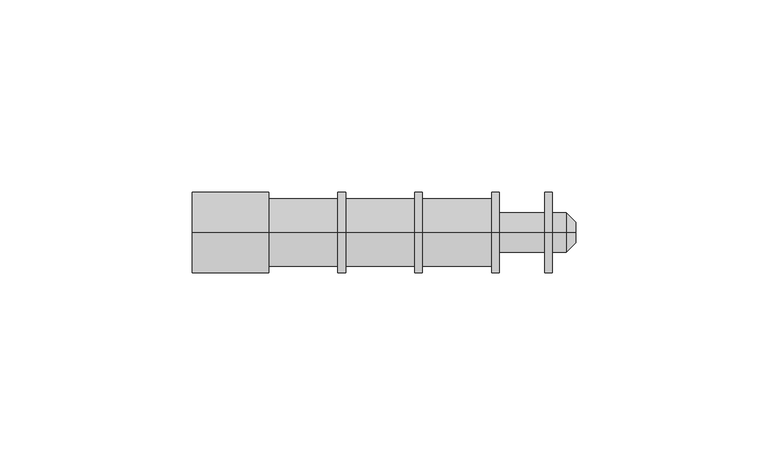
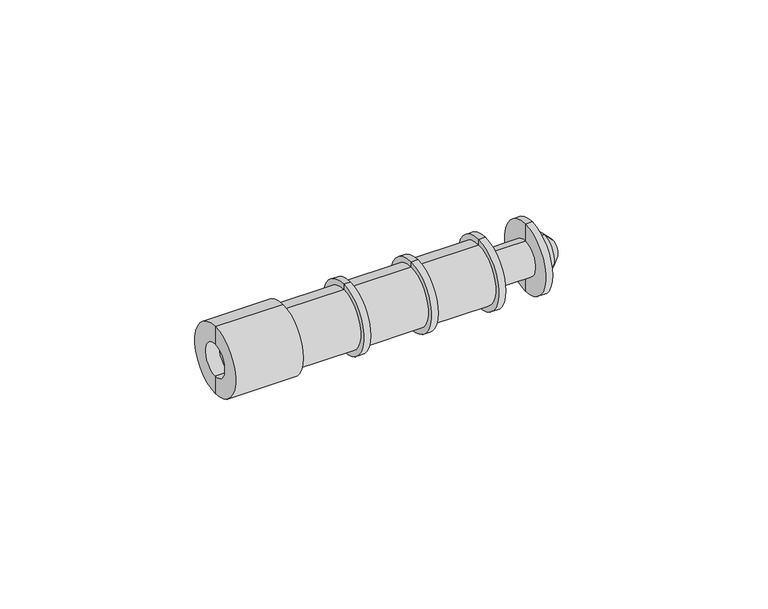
"""IFC4 building model written with IfcOpenShell, lengths in millimetres: proxy geometry, TDM_ДАТЧИК КОНТРОЛЯ УРОВНЯ ДКУ-01 : ДКУ-01."""

from ifc_helpers import new_model, si_unit, frame, origin, place, context, project, spatial, polyline, circle_curve, source, transform, mapped, element, save
from ifc_brep_helpers import plane_surface, cylinder_surface, revolved_surface, advanced_brep


def electrical_equipment_ac6f2588(model_context):
    return source(origin(), model_context, "Body", "AdvancedBrep", [
        advanced_brep(
        [(-46.0, 0.0, 5.0), (-46.0, 0.0, -5.0), (-46.0, 0.0, 0.0), (-50.0, 0.0, 5.0), (-50.0, 0.0, -5.0), (-50.0, 0.0, 10.5), (-50.0, 0.0, -10.5), (-30.0, 0.0, 10.5), (-30.0, 0.0, -10.5), (-30.0, 0.0, 8.8447154), (-30.0, 0.0, -8.8447154), (-12.0, 0.0, 8.8447154), (-12.0, 0.0, -8.8447154), (-12.0, 0.0, 10.5), (-12.0, 0.0, -10.5), (-10.0, 0.0, 10.5), (-10.0, 0.0, -10.5), (-10.0, 0.0, 8.8447154), (-10.0, 0.0, -8.8447154), (8.0, 0.0, 8.8447154), (8.0, 0.0, -8.8447154), (8.0, 0.0, 10.5), (8.0, 0.0, -10.5), (9.9975313, 0.0, 10.5), (9.9975313, 0.0, -10.5), (9.9975313, 0.0, 8.8447154), (9.9975313, 0.0, -8.8447154), (27.9975313, 0.0, 8.8447154), (27.9975313, 0.0, -8.8447154), (27.9975313, 0.0, 10.5), (27.9975313, 0.0, -10.5), (29.9975313, 0.0, 10.5), (29.9975313, 0.0, -10.5), (29.9975313, 0.0, 5.1870981), (29.9975313, 0.0, -5.1870981), (41.8725313, 0.0, 5.1870981), (41.8725313, 0.0, -5.1870981), (41.8725313, 0.0, 10.5), (41.8725313, 0.0, -10.5), (43.8725313, 0.0, 10.5), (43.8725313, 0.0, -10.5), (43.8725313, 0.0, 5.1870981), (43.8725313, 0.0, -5.1870981), (47.4773984, 0.0, 5.1870981), (47.4773984, 0.0, -5.1870981), (50.0, 0.0, 2.6644965), (50.0, 0.0, -2.6644965), (50.0, 0.0, 0.0)],
        [
            (0, 1, circle_curve(frame((-46.0, 0.0, 0.0), z_axis=(-1.0, 0.0, 0.0), x_axis=(0.0, 0.0, -1.0)), 5.0)),
            (1, 2),
            (2, 0),
            (1, 0, circle_curve(frame((-46.0, 0.0, 0.0), z_axis=(-1.0, 0.0, 0.0), x_axis=(0.0, 0.0, -1.0)), 5.0)),
            (3, 4, circle_curve(frame((-50.0, 0.0, 0.0), z_axis=(-1.0, 0.0, 0.0), x_axis=(0.0, 0.0, -1.0)), 5.0)),
            (4, 1),
            (0, 3),
            (4, 3, circle_curve(frame((-50.0, 0.0, 0.0), z_axis=(-1.0, 0.0, 0.0), x_axis=(0.0, 0.0, -1.0)), 5.0)),
            (5, 6, circle_curve(frame((-50.0, 0.0, 0.0), z_axis=(-1.0, 0.0, 0.0), x_axis=(0.0, 0.0, -1.0)), 10.5)),
            (6, 4),
            (3, 5),
            (6, 5, circle_curve(frame((-50.0, 0.0, 0.0), z_axis=(-1.0, 0.0, 0.0), x_axis=(0.0, 0.0, -1.0)), 10.5)),
            (7, 8, circle_curve(frame((-30.0, 0.0, 0.0), z_axis=(-1.0, 0.0, 0.0), x_axis=(0.0, 0.0, -1.0)), 10.5)),
            (8, 6),
            (5, 7),
            (8, 7, circle_curve(frame((-30.0, 0.0, 0.0), z_axis=(-1.0, 0.0, 0.0), x_axis=(0.0, 0.0, -1.0)), 10.5)),
            (9, 10, circle_curve(frame((-30.0, 0.0, 0.0), z_axis=(-1.0, 0.0, 0.0), x_axis=(0.0, 0.0, -1.0)), 8.8447154)),
            (10, 8),
            (7, 9),
            (10, 9, circle_curve(frame((-30.0, 0.0, 0.0), z_axis=(-1.0, 0.0, 0.0), x_axis=(0.0, 0.0, -1.0)), 8.8447154)),
            (11, 12, circle_curve(frame((-12.0, 0.0, 0.0), z_axis=(-1.0, 0.0, 0.0), x_axis=(0.0, 0.0, -1.0)), 8.8447154)),
            (12, 10),
            (9, 11),
            (12, 11, circle_curve(frame((-12.0, 0.0, 0.0), z_axis=(-1.0, 0.0, 0.0), x_axis=(0.0, 0.0, -1.0)), 8.8447154)),
            (13, 14, circle_curve(frame((-12.0, 0.0, 0.0), z_axis=(-1.0, 0.0, 0.0), x_axis=(0.0, 0.0, -1.0)), 10.5)),
            (14, 12),
            (11, 13),
            (14, 13, circle_curve(frame((-12.0, 0.0, 0.0), z_axis=(-1.0, 0.0, 0.0), x_axis=(0.0, 0.0, -1.0)), 10.5)),
            (15, 16, circle_curve(frame((-10.0, 0.0, 0.0), z_axis=(-1.0, 0.0, 0.0), x_axis=(0.0, 0.0, -1.0)), 10.5)),
            (16, 14),
            (13, 15),
            (16, 15, circle_curve(frame((-10.0, 0.0, 0.0), z_axis=(-1.0, 0.0, 0.0), x_axis=(0.0, 0.0, -1.0)), 10.5)),
            (17, 18, circle_curve(frame((-10.0, 0.0, 0.0), z_axis=(-1.0, 0.0, 0.0), x_axis=(0.0, 0.0, -1.0)), 8.8447154)),
            (18, 16),
            (15, 17),
            (18, 17, circle_curve(frame((-10.0, 0.0, 0.0), z_axis=(-1.0, 0.0, 0.0), x_axis=(0.0, 0.0, -1.0)), 8.8447154)),
            (19, 20, circle_curve(frame((8.0, 0.0, 0.0), z_axis=(-1.0, 0.0, 0.0), x_axis=(0.0, 0.0, -1.0)), 8.8447154)),
            (20, 18),
            (17, 19),
            (20, 19, circle_curve(frame((8.0, 0.0, 0.0), z_axis=(-1.0, 0.0, 0.0), x_axis=(0.0, 0.0, -1.0)), 8.8447154)),
            (21, 22, circle_curve(frame((8.0, 0.0, 0.0), z_axis=(-1.0, 0.0, 0.0), x_axis=(0.0, 0.0, -1.0)), 10.5)),
            (22, 20),
            (19, 21),
            (22, 21, circle_curve(frame((8.0, 0.0, 0.0), z_axis=(-1.0, 0.0, 0.0), x_axis=(0.0, 0.0, -1.0)), 10.5)),
            (23, 24, circle_curve(frame((9.9975313, 0.0, 0.0), z_axis=(-1.0, 0.0, 0.0), x_axis=(0.0, 0.0, -1.0)), 10.5)),
            (24, 22),
            (21, 23),
            (24, 23, circle_curve(frame((9.9975313, 0.0, 0.0), z_axis=(-1.0, 0.0, 0.0), x_axis=(0.0, 0.0, -1.0)), 10.5)),
            (25, 26, circle_curve(frame((9.9975313, 0.0, 0.0), z_axis=(-1.0, 0.0, 0.0), x_axis=(0.0, 0.0, -1.0)), 8.8447154)),
            (26, 24),
            (23, 25),
            (26, 25, circle_curve(frame((9.9975313, 0.0, 0.0), z_axis=(-1.0, 0.0, 0.0), x_axis=(0.0, 0.0, -1.0)), 8.8447154)),
            (27, 28, circle_curve(frame((27.9975313, 0.0, 0.0), z_axis=(-1.0, 0.0, 0.0), x_axis=(0.0, 0.0, -1.0)), 8.8447154)),
            (28, 26),
            (25, 27),
            (28, 27, circle_curve(frame((27.9975313, 0.0, 0.0), z_axis=(-1.0, 0.0, 0.0), x_axis=(0.0, 0.0, -1.0)), 8.8447154)),
            (29, 30, circle_curve(frame((27.9975313, 0.0, 0.0), z_axis=(-1.0, 0.0, 0.0), x_axis=(0.0, 0.0, -1.0)), 10.5)),
            (30, 28),
            (27, 29),
            (30, 29, circle_curve(frame((27.9975313, 0.0, 0.0), z_axis=(-1.0, 0.0, 0.0), x_axis=(0.0, 0.0, -1.0)), 10.5)),
            (31, 32, circle_curve(frame((29.9975313, 0.0, 0.0), z_axis=(-1.0, 0.0, 0.0), x_axis=(0.0, 0.0, -1.0)), 10.5)),
            (32, 30),
            (29, 31),
            (32, 31, circle_curve(frame((29.9975313, 0.0, 0.0), z_axis=(-1.0, 0.0, 0.0), x_axis=(0.0, 0.0, -1.0)), 10.5)),
            (33, 34, circle_curve(frame((29.9975313, 0.0, 0.0), z_axis=(-1.0, 0.0, 0.0), x_axis=(0.0, 0.0, -1.0)), 5.1870981)),
            (34, 32),
            (31, 33),
            (34, 33, circle_curve(frame((29.9975313, 0.0, 0.0), z_axis=(-1.0, 0.0, 0.0), x_axis=(0.0, 0.0, -1.0)), 5.1870981)),
            (35, 36, circle_curve(frame((41.8725313, 0.0, 0.0), z_axis=(-1.0, 0.0, 0.0), x_axis=(0.0, 0.0, -1.0)), 5.1870981)),
            (36, 34),
            (33, 35),
            (36, 35, circle_curve(frame((41.8725313, 0.0, 0.0), z_axis=(-1.0, 0.0, 0.0), x_axis=(0.0, 0.0, -1.0)), 5.1870981)),
            (37, 38, circle_curve(frame((41.8725313, 0.0, 0.0), z_axis=(-1.0, 0.0, 0.0), x_axis=(0.0, 0.0, -1.0)), 10.5)),
            (38, 36),
            (35, 37),
            (38, 37, circle_curve(frame((41.8725313, 0.0, 0.0), z_axis=(-1.0, 0.0, 0.0), x_axis=(0.0, 0.0, -1.0)), 10.5)),
            (39, 40, circle_curve(frame((43.8725313, 0.0, 0.0), z_axis=(-1.0, 0.0, 0.0), x_axis=(0.0, 0.0, -1.0)), 10.5)),
            (40, 38),
            (37, 39),
            (40, 39, circle_curve(frame((43.8725313, 0.0, 0.0), z_axis=(-1.0, 0.0, 0.0), x_axis=(0.0, 0.0, -1.0)), 10.5)),
            (41, 42, circle_curve(frame((43.8725313, 0.0, 0.0), z_axis=(-1.0, 0.0, 0.0), x_axis=(0.0, 0.0, -1.0)), 5.1870981)),
            (42, 40),
            (39, 41),
            (42, 41, circle_curve(frame((43.8725313, 0.0, 0.0), z_axis=(-1.0, 0.0, 0.0), x_axis=(0.0, 0.0, -1.0)), 5.1870981)),
            (43, 44, circle_curve(frame((47.4773984, 0.0, 0.0), z_axis=(-1.0, 0.0, 0.0), x_axis=(0.0, 0.0, -1.0)), 5.1870981)),
            (44, 42),
            (41, 43),
            (44, 43, circle_curve(frame((47.4773984, 0.0, 0.0), z_axis=(-1.0, 0.0, 0.0), x_axis=(0.0, 0.0, -1.0)), 5.1870981)),
            (45, 46, circle_curve(frame((50.0, 0.0, 0.0), z_axis=(-1.0, 0.0, 0.0), x_axis=(0.0, 0.0, -1.0)), 2.6644965)),
            (46, 44),
            (43, 45),
            (46, 45, circle_curve(frame((50.0, 0.0, 0.0), z_axis=(-1.0, 0.0, 0.0), x_axis=(0.0, 0.0, -1.0)), 2.6644965)),
            (47, 46),
            (45, 47),
        ],
        [
            plane_surface(frame((-46.0, 0.0, 0.0), z_axis=(-1.0, 0.0, 0.0), x_axis=(0.0, 0.0, -1.0))),
            revolved_surface(polyline([(-46.0, 0.0, -5.0), (-50.0, 0.0, -5.0)]), (-38.3288785, 0.0, 0.0), (1.0, 0.0, 0.0)),
            plane_surface(frame((-50.0, 0.0, 0.0), z_axis=(-1.0, 0.0, 0.0), x_axis=(0.0, 0.0, -1.0))),
            cylinder_surface(frame((-38.3288785, 0.0, 0.0), z_axis=(1.0, 0.0, 0.0), x_axis=(0.0, 0.0, -1.0)), 10.5),
            plane_surface(frame((-30.0, 0.0, 0.0), z_axis=(1.0, 0.0, 0.0), x_axis=(0.0, 0.0, -1.0))),
            cylinder_surface(frame((-38.3288785, 0.0, 0.0), z_axis=(1.0, 0.0, 0.0), x_axis=(0.0, 0.0, -1.0)), 8.8447154),
            plane_surface(frame((-12.0, 0.0, 0.0), z_axis=(-1.0, 0.0, 0.0), x_axis=(0.0, 0.0, -1.0))),
            plane_surface(frame((-10.0, 0.0, 0.0), z_axis=(1.0, 0.0, 0.0), x_axis=(0.0, 0.0, -1.0))),
            plane_surface(frame((8.0, 0.0, 0.0), z_axis=(-1.0, 0.0, 0.0), x_axis=(0.0, 0.0, -1.0))),
            plane_surface(frame((9.9975313, 0.0, 0.0), z_axis=(1.0, 0.0, 0.0), x_axis=(0.0, 0.0, -1.0))),
            plane_surface(frame((27.9975313, 0.0, 0.0), z_axis=(-1.0, 0.0, 0.0), x_axis=(0.0, 0.0, -1.0))),
            plane_surface(frame((29.9975313, 0.0, 0.0), z_axis=(1.0, 0.0, 0.0), x_axis=(0.0, 0.0, -1.0))),
            cylinder_surface(frame((-38.3288785, 0.0, 0.0), z_axis=(1.0, 0.0, 0.0), x_axis=(0.0, 0.0, -1.0)), 5.1870981),
            plane_surface(frame((41.8725313, 0.0, 0.0), z_axis=(-1.0, 0.0, 0.0), x_axis=(0.0, 0.0, -1.0))),
            plane_surface(frame((43.8725313, 0.0, 0.0), z_axis=(1.0, 0.0, 0.0), x_axis=(0.0, 0.0, -1.0))),
            revolved_surface(polyline([(47.4773984, 0.0, -5.1870981), (50.0, 0.0, -2.6644965)]), (-38.3288785, 0.0, 0.0), (1.0, 0.0, 0.0)),
            plane_surface(frame((50.0, 0.0, 0.0), z_axis=(1.0, 0.0, 0.0), x_axis=(0.0, 0.0, -1.0))),
        ],
        [
            (0, [[1, 2, 3]]),
            (0, [[4, -3, -2]]),
            (1, [[5, 6, -1, 7]]),
            (1, [[8, -7, -4, -6]]),
            (2, [[9, 10, -5, 11]]),
            (2, [[12, -11, -8, -10]]),
            (3, [[13, 14, -9, 15]]),
            (3, [[16, -15, -12, -14]]),
            (4, [[17, 18, -13, 19]]),
            (4, [[20, -19, -16, -18]]),
            (5, [[21, 22, -17, 23]]),
            (5, [[24, -23, -20, -22]]),
            (6, [[25, 26, -21, 27]]),
            (6, [[28, -27, -24, -26]]),
            (3, [[29, 30, -25, 31]]),
            (3, [[32, -31, -28, -30]]),
            (7, [[33, 34, -29, 35]]),
            (7, [[36, -35, -32, -34]]),
            (5, [[37, 38, -33, 39]]),
            (5, [[40, -39, -36, -38]]),
            (8, [[41, 42, -37, 43]]),
            (8, [[44, -43, -40, -42]]),
            (3, [[45, 46, -41, 47]]),
            (3, [[48, -47, -44, -46]]),
            (9, [[49, 50, -45, 51]]),
            (9, [[52, -51, -48, -50]]),
            (5, [[53, 54, -49, 55]]),
            (5, [[56, -55, -52, -54]]),
            (10, [[57, 58, -53, 59]]),
            (10, [[60, -59, -56, -58]]),
            (3, [[61, 62, -57, 63]]),
            (3, [[64, -63, -60, -62]]),
            (11, [[65, 66, -61, 67]]),
            (11, [[68, -67, -64, -66]]),
            (12, [[69, 70, -65, 71]]),
            (12, [[72, -71, -68, -70]]),
            (13, [[73, 74, -69, 75]]),
            (13, [[76, -75, -72, -74]]),
            (3, [[77, 78, -73, 79]]),
            (3, [[80, -79, -76, -78]]),
            (14, [[81, 82, -77, 83]]),
            (14, [[84, -83, -80, -82]]),
            (12, [[85, 86, -81, 87]]),
            (12, [[88, -87, -84, -86]]),
            (15, [[89, 90, -85, 91]]),
            (15, [[92, -91, -88, -90]]),
            (16, [[93, -89, 94]]),
            (16, [[-94, -92, -93]]),
        ],
    ),
    ])


if __name__ == "__main__":
    model = new_model("IFC4")
    model_context = context("Model", 3, world=origin())
    ifc_project = project(units=[si_unit("LENGTHUNIT", "METRE", prefix="MILLI")], contexts=[model_context])
    site = spatial("IfcSite", under=ifc_project)
    building = spatial("IfcBuilding", under=site)
    placement = place(None, origin())
    electrical_equipment_shape = electrical_equipment_ac6f2588(model_context)
    element("IfcBuildingElementProxy", 1, Name="TDM_ДАТЧИК КОНТРОЛЯ УРОВНЯ ДКУ-01 : ДКУ-01", ObjectType="TDM_ДАТЧИК КОНТРОЛЯ УРОВНЯ ДКУ-01 : ДКУ-01", at=placement, inside=building, context=model_context, shape_type="MappedRepresentation", body=[
        mapped(electrical_equipment_shape, transform((0.0, 0.0, 0.0), x_axis=(1.0, 0.0, 0.0), y_axis=(0.0, 1.0, 0.0), z_axis=(0.0, 0.0, 1.0))),
    ])
    save(model, "model.ifc")
